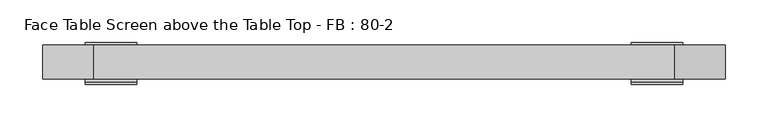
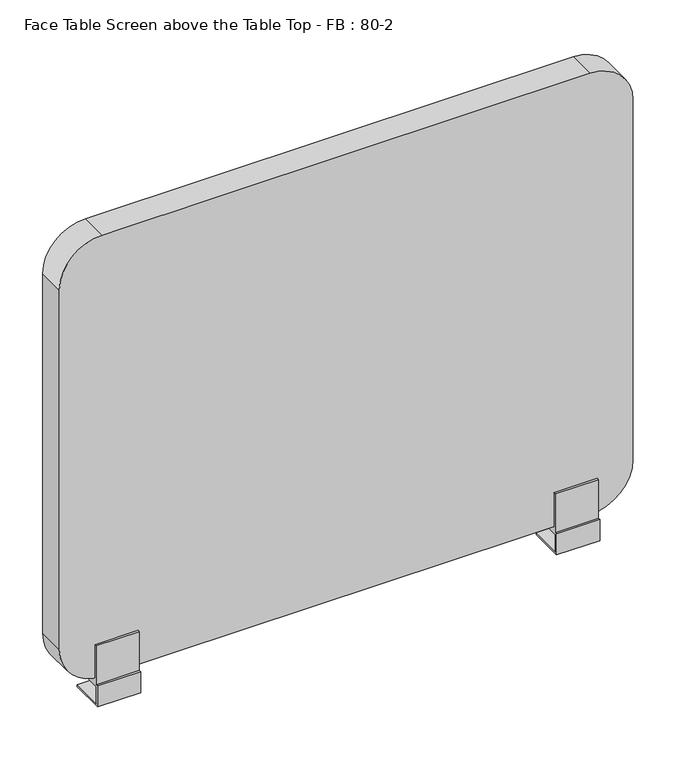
"""IFC4 building model written with IfcOpenShell, lengths in millimetres: furniture geometry, Face Table Screen above the Table Top - FB : 80-2."""

from ifc_helpers import new_model, si_unit, point, frame, frame_2d, origin, place, context, project, spatial, polyline, circle_curve, trimmed, segment, composite_curve, outline, extrude, source, transform, mapped, element, save
from ifc_brep_helpers import plane_surface, cylinder_surface, advanced_brep


def face_table_screen_above_the_table_top_fb_80_2_485a4c9a(model_context):
    return source(origin(), model_context, "Body", "SolidModel", [
        advanced_brep(
        [(-325.0, 20.0, -39.4406633), (-315.0, 20.0, -39.4406633), (-315.0, 20.0, -28.0), (-325.0, 20.0, -28.0), (-350.0, 43.0, -25.0), (-350.0, -3.0, -25.0), (-290.0, -3.0, -25.0), (-290.0, 43.0, -25.0), (-350.0, -3.0, 0.0), (-350.0, 43.0, -28.0), (-350.0, -6.0, -28.0), (-350.0, -6.0, 3.0), (-350.0, -3.0, 3.0), (-350.0, -3.0, 60.0), (-350.0, 0.0, 60.0), (-350.0, 0.0, 10.0), (-350.0, 40.0, 10.0), (-350.0, 40.0, 60.0), (-350.0, 43.0, 60.0), (-350.0, 43.0, 0.0), (-290.0, -3.0, 0.0), (-290.0, 43.0, 0.0), (-290.0, 43.0, 60.0), (-290.0, 40.0, 60.0), (-290.0, 40.0, 10.0), (-290.0, 0.0, 10.0), (-290.0, 0.0, 60.0), (-290.0, -3.0, 60.0), (-290.0, -3.0, 3.0), (-290.0, -6.0, 3.0), (-290.0, -6.0, -28.0), (-290.0, 43.0, -28.0)],
        [
            (0, 1, circle_curve(frame((-320.0, 20.0, -39.4406633), z_axis=(0.0, 0.0, -1.0), x_axis=(1.0, 0.0, 0.0)), 5.0)),
            (1, 0, circle_curve(frame((-320.0, 20.0, -39.4406633), z_axis=(0.0, 0.0, -1.0), x_axis=(1.0, 0.0, 0.0)), 5.0)),
            (1, 2),
            (2, 3, circle_curve(frame((-320.0, 20.0, -28.0), z_axis=(0.0, 0.0, -1.0), x_axis=(1.0, 0.0, 0.0)), 5.0)),
            (3, 0),
            (3, 2, circle_curve(frame((-320.0, 20.0, -28.0), z_axis=(0.0, 0.0, -1.0), x_axis=(1.0, 0.0, 0.0)), 5.0)),
            (4, 5),
            (5, 6),
            (6, 7),
            (7, 4),
            (8, 5),
            (4, 9),
            (9, 10),
            (10, 11),
            (11, 12),
            (12, 13),
            (13, 14),
            (14, 15),
            (15, 16),
            (16, 17),
            (17, 18),
            (18, 19),
            (19, 8),
            (20, 21),
            (21, 22),
            (22, 23),
            (23, 24),
            (24, 25),
            (25, 26),
            (26, 27),
            (27, 28),
            (28, 29),
            (29, 30),
            (30, 31),
            (31, 7),
            (6, 20),
            (19, 21),
            (20, 8),
            (18, 22),
            (17, 23),
            (16, 24),
            (15, 25),
            (14, 26),
            (13, 27),
            (12, 28),
            (11, 29),
            (10, 30),
            (9, 31),
        ],
        [
            plane_surface(frame((-315.0, 20.0, -39.4406633), z_axis=(0.0, 0.0, -1.0), x_axis=(0.0, -1.0, 0.0))),
            cylinder_surface(frame((-320.0, 20.0, -39.4406633), z_axis=(0.0, 0.0, 1.0), x_axis=(1.0, 0.0, 0.0)), 5.0),
            plane_surface(frame((-315.0, 20.0, -25.0), z_axis=(0.0, 0.0, 1.0), x_axis=(0.0, 1.0, 0.0))),
            plane_surface(frame((-350.0, 43.0, 0.0), z_axis=(-1.0, 0.0, 0.0), x_axis=(0.0, -1.0, 0.0))),
            plane_surface(frame((-290.0, 43.0, 0.0), z_axis=(1.0, 0.0, 0.0), x_axis=(0.0, 1.0, 0.0))),
            plane_surface(frame((-290.0, -3.0, 0.0), z_axis=(0.0, 0.0, -1.0), x_axis=(-1.0, 0.0, 0.0))),
            plane_surface(frame((-290.0, 43.0, 0.0), z_axis=(0.0, 1.0, 0.0), x_axis=(-1.0, 0.0, 0.0))),
            plane_surface(frame((-290.0, 43.0, 60.0), z_axis=(0.0, 0.0, 1.0), x_axis=(-1.0, 0.0, 0.0))),
            plane_surface(frame((-290.0, 40.0, 60.0), z_axis=(0.0, -1.0, 0.0), x_axis=(-1.0, 0.0, 0.0))),
            plane_surface(frame((-290.0, 40.0, 10.0), z_axis=(0.0, 0.0, 1.0), x_axis=(-1.0, 0.0, 0.0))),
            plane_surface(frame((-290.0, 0.0, 10.0), z_axis=(0.0, 1.0, 0.0), x_axis=(-1.0, 0.0, 0.0))),
            plane_surface(frame((-290.0, 0.0, 60.0), z_axis=(0.0, 0.0, 1.0), x_axis=(-1.0, 0.0, 0.0))),
            plane_surface(frame((-290.0, -3.0, 60.0), z_axis=(0.0, -1.0, 0.0), x_axis=(-1.0, 0.0, 0.0))),
            plane_surface(frame((-290.0, -3.0, 3.0), z_axis=(0.0, 0.0, 1.0), x_axis=(-1.0, 0.0, 0.0))),
            plane_surface(frame((-290.0, -6.0, 3.0), z_axis=(0.0, -1.0, 0.0), x_axis=(-1.0, 0.0, 0.0))),
            plane_surface(frame((-290.0, -6.0, -28.0), z_axis=(0.0, 0.0, -1.0), x_axis=(-1.0, 0.0, 0.0))),
            plane_surface(frame((-290.0, 43.0, -28.0), z_axis=(0.0, 1.0, 0.0), x_axis=(-1.0, 0.0, 0.0))),
            plane_surface(frame((-290.0, -3.0, -25.0), z_axis=(0.0, 1.0, 0.0), x_axis=(-1.0, 0.0, 0.0))),
        ],
        [
            (0, [[1, 2]]),
            (1, [[-2, 3, 4, 5]]),
            (1, [[-1, -5, 6, -3]]),
            (2, [[7, 8, 9, 10]]),
            (3, [[11, -7, 12, 13, 14, 15, 16, 17, 18, 19, 20, 21, 22, 23]]),
            (4, [[24, 25, 26, 27, 28, 29, 30, 31, 32, 33, 34, 35, -9, 36]]),
            (5, [[-23, 37, -24, 38]]),
            (6, [[-22, 39, -25, -37]]),
            (7, [[-21, 40, -26, -39]]),
            (8, [[-20, 41, -27, -40]]),
            (9, [[-19, 42, -28, -41]]),
            (10, [[-18, 43, -29, -42]]),
            (11, [[-17, 44, -30, -43]]),
            (12, [[-16, 45, -31, -44]]),
            (13, [[-15, 46, -32, -45]]),
            (14, [[-14, 47, -33, -46]]),
            (15, [[-13, 48, -34, -47], [-4, -6]]),
            (16, [[-12, -10, -35, -48]]),
            (17, [[-11, -38, -36, -8]]),
        ],
    ),
        advanced_brep(
        [(315.0, 20.0, -39.4406633), (325.0, 20.0, -39.4406633), (325.0, 20.0, -28.0), (315.0, 20.0, -28.0), (290.0, 43.0, -25.0), (290.0, -3.0, -25.0), (350.0, -3.0, -25.0), (350.0, 43.0, -25.0), (290.0, -3.0, 0.0), (290.0, 43.0, -28.0), (290.0, -6.0, -28.0), (290.0, -6.0, 3.0), (290.0, -3.0, 3.0), (290.0, -3.0, 60.0), (290.0, 0.0, 60.0), (290.0, 0.0, 10.0), (290.0, 40.0, 10.0), (290.0, 40.0, 60.0), (290.0, 43.0, 60.0), (290.0, 43.0, 0.0), (350.0, -3.0, 0.0), (350.0, 43.0, 0.0), (350.0, 43.0, 60.0), (350.0, 40.0, 60.0), (350.0, 40.0, 10.0), (350.0, 0.0, 10.0), (350.0, 0.0, 60.0), (350.0, -3.0, 60.0), (350.0, -3.0, 3.0), (350.0, -6.0, 3.0), (350.0, -6.0, -28.0), (350.0, 43.0, -28.0)],
        [
            (0, 1, circle_curve(frame((320.0, 20.0, -39.4406633), z_axis=(0.0, 0.0, -1.0), x_axis=(1.0, 0.0, 0.0)), 5.0)),
            (1, 0, circle_curve(frame((320.0, 20.0, -39.4406633), z_axis=(0.0, 0.0, -1.0), x_axis=(1.0, 0.0, 0.0)), 5.0)),
            (1, 2),
            (2, 3, circle_curve(frame((320.0, 20.0, -28.0), z_axis=(0.0, 0.0, -1.0), x_axis=(1.0, 0.0, 0.0)), 5.0)),
            (3, 0),
            (3, 2, circle_curve(frame((320.0, 20.0, -28.0), z_axis=(0.0, 0.0, -1.0), x_axis=(1.0, 0.0, 0.0)), 5.0)),
            (4, 5),
            (5, 6),
            (6, 7),
            (7, 4),
            (8, 5),
            (4, 9),
            (9, 10),
            (10, 11),
            (11, 12),
            (12, 13),
            (13, 14),
            (14, 15),
            (15, 16),
            (16, 17),
            (17, 18),
            (18, 19),
            (19, 8),
            (20, 21),
            (21, 22),
            (22, 23),
            (23, 24),
            (24, 25),
            (25, 26),
            (26, 27),
            (27, 28),
            (28, 29),
            (29, 30),
            (30, 31),
            (31, 7),
            (6, 20),
            (19, 21),
            (20, 8),
            (18, 22),
            (17, 23),
            (16, 24),
            (15, 25),
            (14, 26),
            (13, 27),
            (12, 28),
            (11, 29),
            (10, 30),
            (9, 31),
        ],
        [
            plane_surface(frame((325.0, 20.0, -39.4406633), z_axis=(0.0, 0.0, -1.0), x_axis=(0.0, -1.0, 0.0))),
            cylinder_surface(frame((320.0, 20.0, -39.4406633), z_axis=(0.0, 0.0, 1.0), x_axis=(1.0, 0.0, 0.0)), 5.0),
            plane_surface(frame((325.0, 20.0, -25.0), z_axis=(0.0, 0.0, 1.0), x_axis=(0.0, 1.0, 0.0))),
            plane_surface(frame((290.0, 43.0, 0.0), z_axis=(-1.0, 0.0, 0.0), x_axis=(0.0, -1.0, 0.0))),
            plane_surface(frame((350.0, 43.0, 0.0), z_axis=(1.0, 0.0, 0.0), x_axis=(0.0, 1.0, 0.0))),
            plane_surface(frame((350.0, -3.0, 0.0), z_axis=(0.0, 0.0, -1.0), x_axis=(-1.0, 0.0, 0.0))),
            plane_surface(frame((350.0, 43.0, 0.0), z_axis=(0.0, 1.0, 0.0), x_axis=(-1.0, 0.0, 0.0))),
            plane_surface(frame((350.0, 43.0, 60.0), z_axis=(0.0, 0.0, 1.0), x_axis=(-1.0, 0.0, 0.0))),
            plane_surface(frame((350.0, 40.0, 60.0), z_axis=(0.0, -1.0, 0.0), x_axis=(-1.0, 0.0, 0.0))),
            plane_surface(frame((350.0, 40.0, 10.0), z_axis=(0.0, 0.0, 1.0), x_axis=(-1.0, 0.0, 0.0))),
            plane_surface(frame((350.0, 0.0, 10.0), z_axis=(0.0, 1.0, 0.0), x_axis=(-1.0, 0.0, 0.0))),
            plane_surface(frame((350.0, 0.0, 60.0), z_axis=(0.0, 0.0, 1.0), x_axis=(-1.0, 0.0, 0.0))),
            plane_surface(frame((350.0, -3.0, 60.0), z_axis=(0.0, -1.0, 0.0), x_axis=(-1.0, 0.0, 0.0))),
            plane_surface(frame((350.0, -3.0, 3.0), z_axis=(0.0, 0.0, 1.0), x_axis=(-1.0, 0.0, 0.0))),
            plane_surface(frame((350.0, -6.0, 3.0), z_axis=(0.0, -1.0, 0.0), x_axis=(-1.0, 0.0, 0.0))),
            plane_surface(frame((350.0, -6.0, -28.0), z_axis=(0.0, 0.0, -1.0), x_axis=(-1.0, 0.0, 0.0))),
            plane_surface(frame((350.0, 43.0, -28.0), z_axis=(0.0, 1.0, 0.0), x_axis=(-1.0, 0.0, 0.0))),
            plane_surface(frame((350.0, -3.0, -25.0), z_axis=(0.0, 1.0, 0.0), x_axis=(-1.0, 0.0, 0.0))),
        ],
        [
            (0, [[1, 2]]),
            (1, [[-2, 3, 4, 5]]),
            (1, [[-1, -5, 6, -3]]),
            (2, [[7, 8, 9, 10]]),
            (3, [[11, -7, 12, 13, 14, 15, 16, 17, 18, 19, 20, 21, 22, 23]]),
            (4, [[24, 25, 26, 27, 28, 29, 30, 31, 32, 33, 34, 35, -9, 36]]),
            (5, [[-23, 37, -24, 38]]),
            (6, [[-22, 39, -25, -37]]),
            (7, [[-21, 40, -26, -39]]),
            (8, [[-20, 41, -27, -40]]),
            (9, [[-19, 42, -28, -41]]),
            (10, [[-18, 43, -29, -42]]),
            (11, [[-17, 44, -30, -43]]),
            (12, [[-16, 45, -31, -44]]),
            (13, [[-15, 46, -32, -45]]),
            (14, [[-14, 47, -33, -46]]),
            (15, [[-13, 48, -34, -47], [-4, -6]]),
            (16, [[-12, -10, -35, -48]]),
            (17, [[-11, -38, -36, -8]]),
        ],
    ),
        extrude(outline(composite_curve([segment(polyline([(660.0, 340.0), (660.0, -340.0)]), True, "CONTINUOUS"), segment(trimmed(circle_curve(frame_2d((600.0, -340.0)), 60.0), [point((660.0, -340.0))], [point((600.0, -400.0))], False, "CARTESIAN"), True, "CONTINUOUS"), segment(polyline([(600.0, -400.0), (70.0, -400.0)]), True, "CONTINUOUS"), segment(trimmed(circle_curve(frame_2d((70.0, -340.0)), 60.0), [point((70.0, -400.0))], [point((10.0, -340.0))], False, "CARTESIAN"), True, "CONTINUOUS"), segment(polyline([(10.0, -340.0), (10.0, 340.0)]), True, "CONTINUOUS"), segment(trimmed(circle_curve(frame_2d((70.0, 340.0)), 60.0), [point((10.0, 340.0))], [point((70.0, 400.0))], False, "CARTESIAN"), True, "CONTINUOUS"), segment(polyline([(70.0, 400.0), (600.0, 400.0)]), True, "CONTINUOUS"), segment(trimmed(circle_curve(frame_2d((600.0, 340.0)), 60.0), [point((600.0, 400.0))], [point((660.0, 340.0))], False, "CARTESIAN"), True, "CONTINUOUS")], self_intersect=False)), frame((0.0, 0.0, 0.0), z_axis=(0.0, 1.0, 0.0), x_axis=(0.0, 0.0, 1.0)), (0.0, 0.0, 1.0), 40.0),
    ])


if __name__ == "__main__":
    model = new_model("IFC4")
    model_context = context("Model", 3, world=origin())
    ifc_project = project(units=[si_unit("LENGTHUNIT", "METRE", prefix="MILLI")], contexts=[model_context])
    site = spatial("IfcSite", under=ifc_project)
    building = spatial("IfcBuilding", under=site)
    placement = place(None, origin())
    face_table_screen_above_the_table_top_fb_80_2_shape = face_table_screen_above_the_table_top_fb_80_2_485a4c9a(model_context)
    element("IfcFurniture", 1, ObjectType="Face Table Screen above the Table Top - FB : 80-2", at=placement, inside=building, context=model_context, shape_type="MappedRepresentation", body=[
        mapped(face_table_screen_above_the_table_top_fb_80_2_shape, transform((0.0, 0.0, 0.0), x_axis=(1.0, 0.0, 0.0), y_axis=(0.0, 1.0, 0.0), z_axis=(0.0, 0.0, 1.0))),
    ])
    save(model, "model.ifc")
